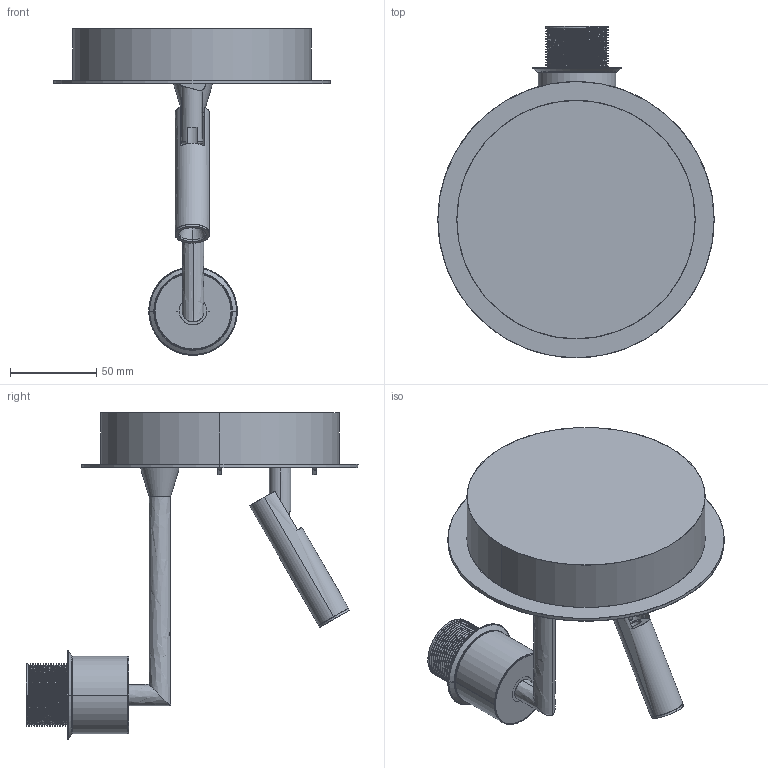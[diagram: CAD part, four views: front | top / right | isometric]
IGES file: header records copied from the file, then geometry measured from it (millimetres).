
Start section: SolidWorks IGES file using analytic representation for surfaces
Global section: file name: \\srvficheros\grupos\DISENYO\DESARROLLO DE PRODUCTO\STILO-8202\STILO-A8202083\STILO.IGS; native system: SolidWorks 2025; preprocessor: SolidWorks 2025; author: d.pons; date: 260206.075614; units: millimetre
Bounding box: 160 x 192.23 x 189.12 mm (x, y, z)
Surface area: 144887.5 mm2 (no closed solid volume)
Topology: 0 solids, 0 shells, 376 faces, 6008 edges, 6008 vertices
Faces by surface type: revolution 242, bspline 134
